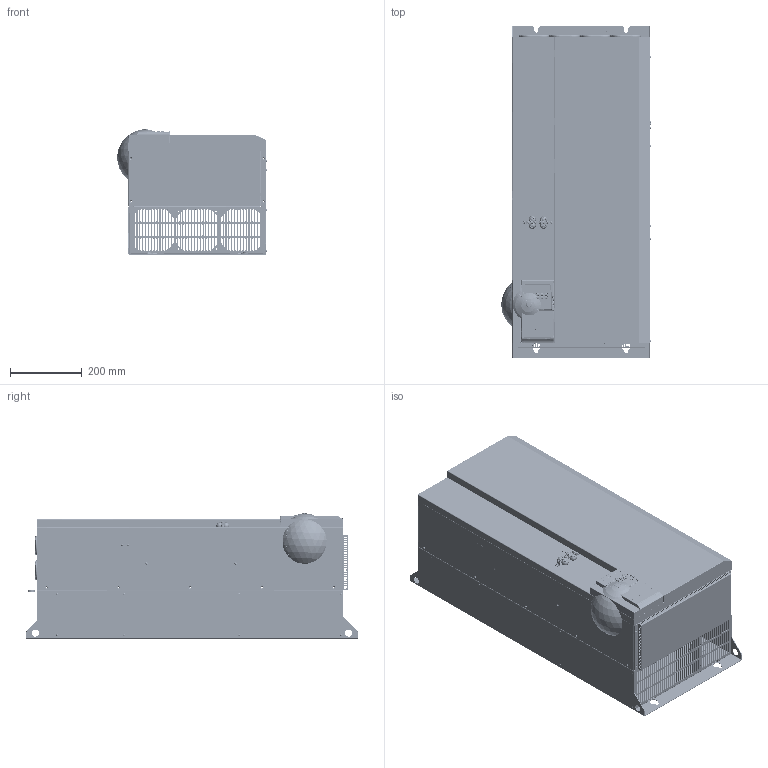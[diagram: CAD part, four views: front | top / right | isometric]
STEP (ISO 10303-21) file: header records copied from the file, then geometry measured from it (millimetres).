
FILE_DESCRIPTION((''),'2;1');
FILE_NAME('XFC5610_110_132KW_K_HOUSING','2018-06-26T10:48:37',('sha2xi'),(''),'CREO PARAMETRIC BY PTC INC, 2017260','CREO PARAMETRIC BY PTC INC, 2017260','');
FILE_SCHEMA(('AUTOMOTIVE_DESIGN { 1 0 10303 214 1 1 1 1 }'));
Products named in the file (70): VFC5610_132KW_BASE_P1_2_1_1; VFC5610_132KW_BASE_P2_1_1_1; VFC5610_132KW_BASE_P3_1_1_1; VFC5610_132KW_BASE_P4_1_1_1; VFC5610-132KW_BASE_REVIT_1_1_1; 01_BASE_VFC5610-132KW_1_1_1; VFC5610_132KW_HOLDER_HEATSINK_6; VFC5610_132KW_LEFT-PLATE_5_1_1; VFC5610_132KW_HOLDER_LEFT_1_1_1; VFC5610_132KW_HOLDER2_LEFT_5_1_; LEFT-PLATE_REVIT_1_1_1; 01_LEFT-PLATE_VFC5610-132KW_9_1; VFC5610_132KW_RIGHT-PLATE_13_1_; VFC5610_132KW_HOLDER_RIGHT_2_1_; VFC5610_132KW_HOLDER3_RIGHT_4_1; RIGHT-PLATE_REVIT_1_1_1; 01_RIGHT-PLATE_VFC5610-132KW_8_; VFC5610_132KW_FRONT-COVER_P1_1_; VFC5610_132KW_FRONT_COVER_P2_1_; TOP-COVER_VFC5610-132KW_1_1_1; X610_37_IO_BASE-20150120_1_1_1; IO-COVER_1; LK_YCP06-PLATINE_1_1_1; CPU_CONNECTOR-14P_1_1_1; CONNECTOR_1_1_1; CONNECTOR_TYCO-331_1_1_1; 548190519_1_1_1; CONNECT2-2_1_1_1; 2185-205SY3_1_1_1; 1155590000_1_1_1; LK_YCP06_1_1_1; DB272710_1_1_1; 01-IOBACK_CASE_1_1_1; LD_KCCT_M3X10_1_1_1; 01-IOCASE_1_1_1; 01_DISPLAYCASE_00_1_1_1; DISPLAY_PCB1_00_1_1_1; R911329772_00_1_1_1; R911330025_00_1_1_1; LED_00_1_1_1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
Assembly tree (117 placements, depth 9):
  XFC5610_110_132KW_K_HOUSING
    XFC5610_110_132KW_K_HOUSING_1
      XFC5610_110_132KW_K_HOUSING_1_1
        00_XFCX610-132KW_10_1_1
          01_HOUSING_VFC5610-132KW_5_1_1
            01_BASE_VFC5610-132KW_1_1_1
              VFC5610_132KW_BASE_P1_2_1_1
              VFC5610_132KW_BASE_P2_1_1_1
              VFC5610_132KW_BASE_P3_1_1_1
              VFC5610_132KW_BASE_P4_1_1_1  x4
              VFC5610-132KW_BASE_REVIT_1_1_1  x16
            VFC5610_132KW_HOLDER_HEATSINK_6
            01_LEFT-PLATE_VFC5610-132KW_9_1
              VFC5610_132KW_LEFT-PLATE_5_1_1
              VFC5610_132KW_HOLDER_LEFT_1_1_1
              VFC5610_132KW_HOLDER2_LEFT_5_1_
              LEFT-PLATE_REVIT_1_1_1  x4
            01_RIGHT-PLATE_VFC5610-132KW_8_
              VFC5610_132KW_RIGHT-PLATE_13_1_
              VFC5610_132KW_HOLDER_RIGHT_2_1_
              VFC5610_132KW_HOLDER3_RIGHT_4_1
              RIGHT-PLATE_REVIT_1_1_1  x4
            VFC5610_132KW_TOP_COVER_1_1_1
              TOP-COVER_VFC5610-132KW_1_1_1
                VFC5610_132KW_FRONT-COVER_P1_1_
                VFC5610_132KW_FRONT_COVER_P2_1_
              X610_37_IO_BASE-20150120_1_1_1
              01-IOCASE_1_1_1
                IO-COVER_1
                LK_YCP06_1_1_1
                  LK_YCP06-PLATINE_1_1_1
                  CPU_CONNECTOR-14P_1_1_1
                  CONNECTOR_1_1_1
                  CONNECTOR_TYCO-331_1_1_1
                  548190519_1_1_1
                  CONNECT2-2_1_1_1
                  2185-205SY3_1_1_1
                  1155590000_1_1_1
                DB272710_1_1_1
                01-IOBACK_CASE_1_1_1
                LD_KCCT_M3X10_1_1_1  x2
              02-DISPLAY-CASE_00_1_1_1
                01_DISPLAYCASE_00_1_1_1
                DISPLAY_PCB_00_1_1_1
                  DISPLAY_PCB1_00_1_1_1
                  R911329772_00_1_1_1  x6
                  R911330025_00_1_1_1
                  LED_00_1_1_1
                  CONNECTOR2_00_1_1_1
                  CONNECTOR_TYCO-331_00_1_1_1
                BACK_CASE1_00_1_1_1
                R911330333_FOLIE_00_1_1_1
                BUUTTON_00_1_1_1
                XUAN_NIU_00_1_1_1
                LD_KCCT_M3X10_00_1_1_1  x2
                LABEL_15X50_00_1_1_1
              01_EARTHING_IO_1_1_1
                EARTHING_CLIP_2_1_1_1
                EARTHING_CLIP1_1_1_1  x2
                LDZHJ_SZCYZT_M4X12_1_1_1  x6
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Bounding box: 416.72 x 923 x 350.05 mm (x, y, z)
Surface area: 4264035.7 mm2 (no closed solid volume)
Topology: 0 solids, 0 shells, 13853 faces, 72281 edges, 71580 vertices
Faces by surface type: bspline 13156, torus 534, sphere 163
Entity records: 1552307 total; most frequent: CARTESIAN_POINT 639870, DIRECTION 108169, TRIMMED_CURVE 98391, VECTOR 90245, LINE 90245, PRESENTATION_STYLE_ASSIGNMENT 70952, STYLED_ITEM 70796, CURVE_STYLE 59254
